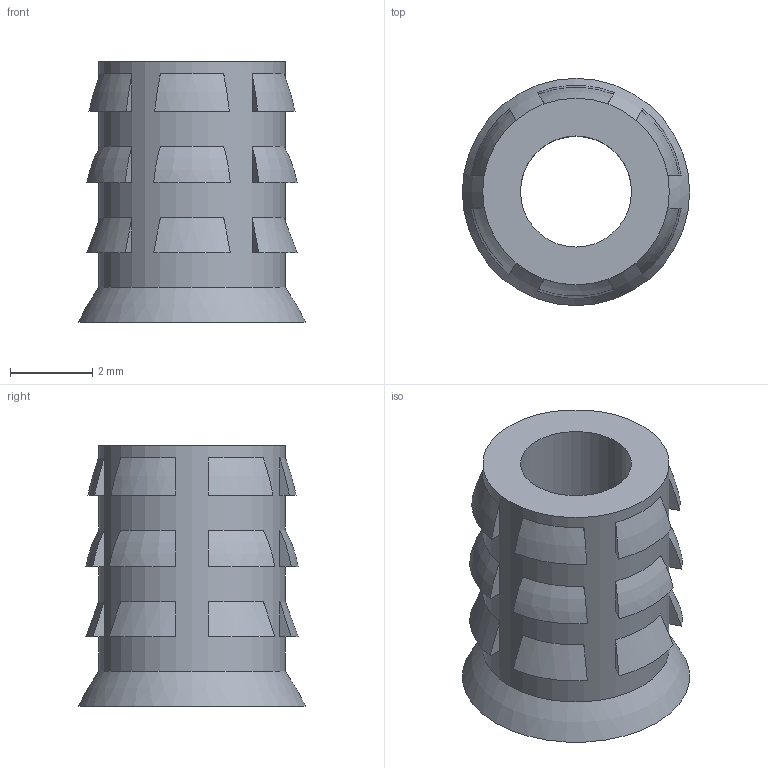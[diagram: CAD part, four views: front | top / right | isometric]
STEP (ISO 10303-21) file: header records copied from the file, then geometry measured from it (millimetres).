
FILE_DESCRIPTION (( 'STEP AP214' ), '1' );
FILE_NAME ('insert 6-32.STEP', '2017-08-09T11:36:12', ( '微软用户' ), ( '微软中国' ), 'SwSTEP 2.0', 'SolidWorks 2015', '' );
FILE_SCHEMA (( 'AUTOMOTIVE_DESIGN' ));
Length unit declared in the file: millimetre
Products named in the file (1): insert 6-32
Bounding box: 5.54 x 5.54 x 6.35 mm (x, y, z)
Volume: 73.7 mm3; surface area: 194.4 mm2
Topology: 1 solids, 1 shells, 78 faces, 172 edges, 114 vertices
Faces by surface type: plane 56, torus 19, cylinder 2, cone 1
Full cylindrical faces by diameter (mm): 2.705 x1, 4.545 x1
Entity records: 2242 total; most frequent: CARTESIAN_POINT 497, DIRECTION 350, ORIENTED_EDGE 336, EDGE_CURVE 168, AXIS2_PLACEMENT_3D 139, VERTEX_POINT 114, EDGE_LOOP 102, FACE_OUTER_BOUND 81
